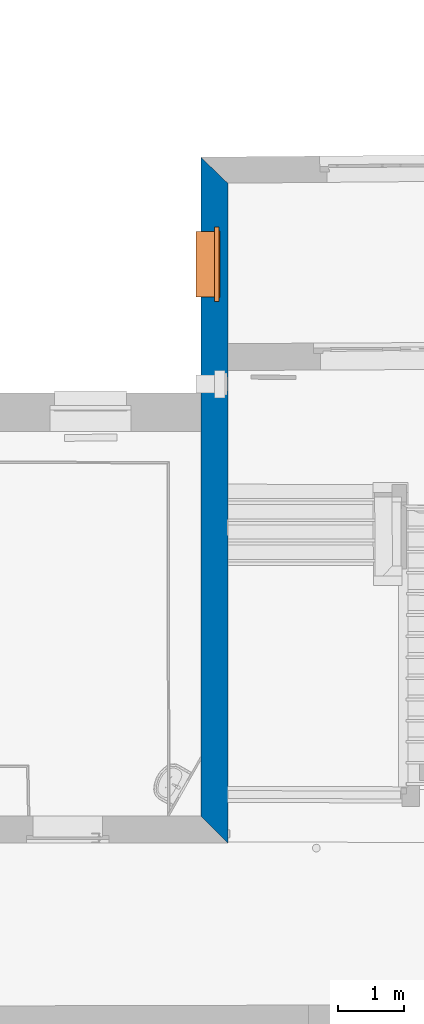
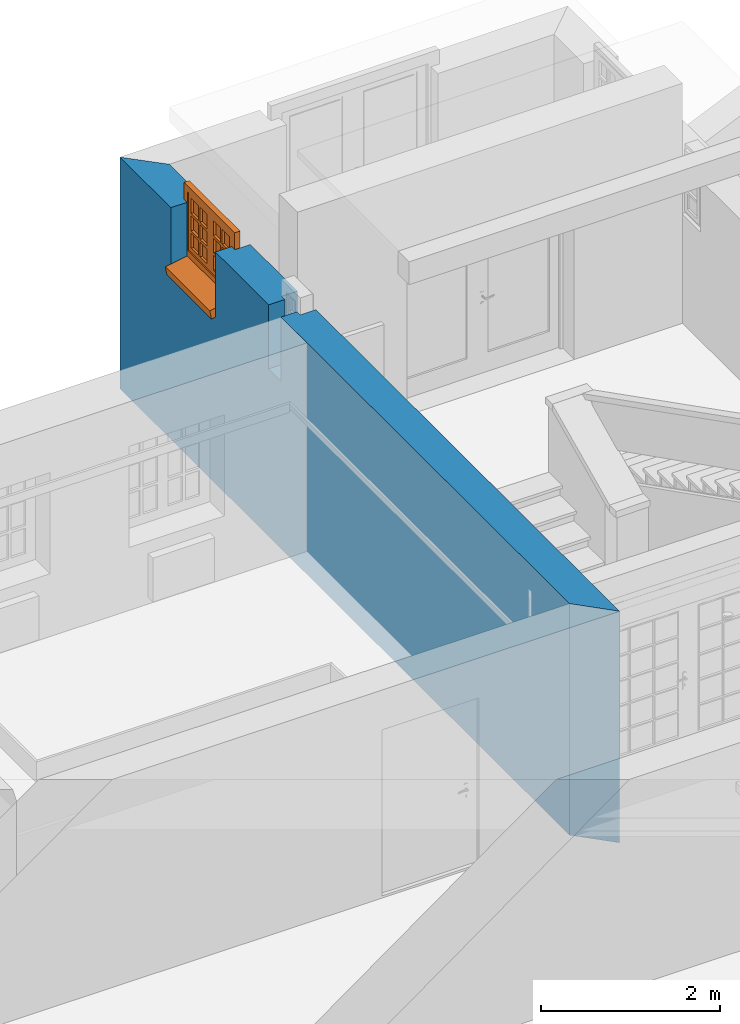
# One storey, part 28 of 196: 1 proxy, 1 wall, 2 openings.
"""IFC2X3 building model written with IfcOpenShell, lengths in metres."""

import ifcopenshell
import ifcopenshell.guid

model = None  # the IFC model being written
_history = None  # IfcOwnerHistory: only IFC2X3 demands one
_inside = {}  # id of a spatial element -> (the spatial element, [elements in it])
_under = {}  # id of a project, library or spatial element -> (it, [spatial elements below it])
_declared = {}  # id of a project -> (the project, [libraries it declares])
_typed = {}  # id of a type object -> (the type object, [elements of that type])
_made_of = {}  # id of a material, layer set ... -> (it, [elements and type objects made of it])


def new_model(schema):
    """Start an empty IFC model of exactly this schema.

    Asked for "IFC4X3", IfcOpenShell would pick the latest addendum, in which some entities
    have other attributes; the version numbers below select the first issue.
    IFC2X3 requires an IfcOwnerHistory on every rooted entity: one is made here for all.
    """
    global model, _history
    if schema == "IFC4X3":
        model = ifcopenshell.file(schema_version=(4, 3, 0, 0))
    else:
        model = ifcopenshell.file(schema=schema)
    _inside.clear()
    _under.clear()
    _declared.clear()
    _typed.clear()
    _made_of.clear()
    _history = None
    if model.schema == "IFC2X3":
        org = make("IfcOrganization", Name="unknown")
        user = make(
            "IfcPersonAndOrganization",
            ThePerson=make("IfcPerson", FamilyName="unknown"),
            TheOrganization=org,
        )
        app = make(
            "IfcApplication",
            ApplicationDeveloper=org,
            Version="unknown",
            ApplicationFullName="unknown",
            ApplicationIdentifier="unknown",
        )
        _history = make(
            "IfcOwnerHistory",
            OwningUser=user,
            OwningApplication=app,
            ChangeAction="ADDED",
            CreationDate=0,
        )
    return model


def make(cls, **values):
    """One entity of the class cls with the attributes given. An attribute that is None is left unset."""
    return model.create_entity(
        cls, **{name: value for name, value in values.items() if value is not None}
    )


def entity(cls, *values):
    """Any entity or typed value of the class cls, its attributes in the order of the schema. None: left unset."""
    e = model.create_entity(cls)
    for i, value in enumerate(values):
        if value is not None:
            e[i] = value
    return e


def rooted(cls, **values):
    """An entity with a GlobalId (a new one), such as an element, a storey or a relation."""
    return make(cls, GlobalId=ifcopenshell.guid.new(), OwnerHistory=_history, **values)


def si_unit(unit_type, name, prefix=None):
    """IfcSIUnit, for example si_unit("LENGTHUNIT", "METRE", prefix="MILLI")."""
    return make("IfcSIUnit", UnitType=unit_type, Prefix=prefix, Name=name)


def converted_unit(unit_type, name, factor, base, dimensions=None, offset=None):
    """IfcConversionBasedUnit, such as the inch: factor (a typed value) times the base unit."""
    return make(
        "IfcConversionBasedUnit"
        if offset is None
        else "IfcConversionBasedUnitWithOffset",
        ConversionOffset=offset,
        Dimensions=None
        if dimensions is None
        else entity("IfcDimensionalExponents", *dimensions),
        UnitType=unit_type,
        Name=name,
        ConversionFactor=make(
            "IfcMeasureWithUnit", ValueComponent=factor, UnitComponent=base
        ),
    )


def derived_unit(unit_type, elements):
    """IfcDerivedUnit: a product of units, each with its exponent."""
    return make(
        "IfcDerivedUnit",
        Elements=[
            make("IfcDerivedUnitElement", Unit=unit, Exponent=power)
            for unit, power in elements
        ],
        UnitType=unit_type,
    )


def money_unit(currency):
    """IfcMonetaryUnit."""
    return make("IfcMonetaryUnit", Currency=currency)


def assignment(units):
    """IfcUnitAssignment: the units of a project."""
    return None if units is None else make("IfcUnitAssignment", Units=units)


def point(xyz):
    """IfcCartesianPoint."""
    return None if xyz is None else make("IfcCartesianPoint", Coordinates=xyz)


def direction(xyz):
    """IfcDirection."""
    return None if xyz is None else make("IfcDirection", DirectionRatios=xyz)


def frame(location, z_axis=None, x_axis=None):
    """IfcAxis2Placement3D, a coordinate frame: its origin and axes. An axis left out is left unset."""
    return make(
        "IfcAxis2Placement3D",
        Location=point(location),
        Axis=direction(z_axis),
        RefDirection=direction(x_axis),
    )


def frame_2d(location, x_axis=None):
    """IfcAxis2Placement2D, a coordinate frame in the plane: its origin and x axis."""
    return make(
        "IfcAxis2Placement2D", Location=point(location), RefDirection=direction(x_axis)
    )


def origin_with_axes():
    """The frame at (0, 0, 0) with the z axis (0, 0, 1) and the x axis (1, 0, 0) written out."""
    return frame((0.0, 0.0, 0.0), z_axis=(0.0, 0.0, 1.0), x_axis=(1.0, 0.0, 0.0))


def origin_2d_with_axis():
    """The frame at (0, 0) in the plane with the x axis (1, 0) written out."""
    return frame_2d((0.0, 0.0), x_axis=(1.0, 0.0))


def place(relative_to, where):
    """IfcLocalPlacement: puts the frame where relative to a parent placement (None: the world)."""
    return make(
        "IfcLocalPlacement", PlacementRelTo=relative_to, RelativePlacement=where
    )


def context(
    kind, dimensions, precision=None, world=None, true_north=None, identifier=None
):
    """IfcGeometricRepresentationContext, for example the 3D "Model" context."""
    return make(
        "IfcGeometricRepresentationContext",
        ContextIdentifier=identifier,
        ContextType=kind,
        CoordinateSpaceDimension=dimensions,
        Precision=precision,
        WorldCoordinateSystem=world,
        TrueNorth=true_north,
    )


def subcontext(parent, identifier, kind, view, scale=None):
    """IfcGeometricRepresentationSubContext, for example "Body" below "Model"."""
    return make(
        "IfcGeometricRepresentationSubContext",
        ContextIdentifier=identifier,
        ContextType=kind,
        ParentContext=parent,
        TargetScale=scale,
        TargetView=view,
    )


def project(units=None, contexts=None):
    """IfcProject with its units and contexts."""
    return rooted(
        "IfcProject",
        Name="project",
        RepresentationContexts=contexts,
        UnitsInContext=assignment(units),
    )


def spatial(cls, under=None, at=None, **own):
    """A site, building, storey or space (cls), placed at a placement, below another one or the project."""
    s = rooted(cls, ObjectPlacement=at, **own)
    if under is not None:
        _under.setdefault(under.id(), (under, []))[1].append(s)
    return s


def polyline(points):
    """IfcPolyline through the points."""
    return make("IfcPolyline", Points=[point(p) for p in points])


def profile(cls, at=None, kind="AREA", **sizes):
    """A parametric profile (cls). Its sizes go by their IFC names, for example OverallWidth=200.0."""
    return make(cls, ProfileType=kind, Position=at, **sizes)


def rectangle(**sizes):
    """IfcRectangleProfileDef."""
    return profile("IfcRectangleProfileDef", **sizes)


def outline(outer, holes=None, kind="AREA"):
    """IfcArbitraryClosedProfileDef: a profile drawn as a closed curve; with holes, ...WithVoids."""
    if holes is None:
        return make("IfcArbitraryClosedProfileDef", ProfileType=kind, OuterCurve=outer)
    return make(
        "IfcArbitraryProfileDefWithVoids",
        ProfileType=kind,
        OuterCurve=outer,
        InnerCurves=holes,
    )


def extrude(swept, where, along, depth):
    """IfcExtrudedAreaSolid: the profile swept, set in the frame where, extruded along a direction by depth."""
    return make(
        "IfcExtrudedAreaSolid",
        SweptArea=swept,
        Position=where,
        ExtrudedDirection=direction(along),
        Depth=depth,
    )


def faces_of(points, faces, orient=None, outer=None):
    """IfcFace entities. A face is a list of loops; a loop is a list of indices into points, from 0.

    orient and outer hold one flag for each loop. By default every Orientation is true, the
    first loop of a face is its IfcFaceOuterBound and the others are IfcFaceBound.
    """
    made = []
    for i, loops in enumerate(faces):
        bounds = []
        for j, loop in enumerate(loops):
            is_outer = j == 0 if outer is None else outer[i][j]
            bounds.append(
                make(
                    "IfcFaceOuterBound" if is_outer else "IfcFaceBound",
                    Bound=make("IfcPolyLoop", Polygon=[points[k] for k in loop]),
                    Orientation=True if orient is None else orient[i][j],
                )
            )
        made.append(make("IfcFace", Bounds=bounds))
    return made


def faceted_brep(points, faces, orient=None, outer=None, voids=None):
    """IfcFacetedBrep: a solid bounded by flat faces; with voids (closed shells), ...WithVoids."""
    shared = [point(p) for p in points]
    hull = make("IfcClosedShell", CfsFaces=faces_of(shared, faces, orient, outer))
    if voids is None:
        return make("IfcFacetedBrep", Outer=hull)
    return make(
        "IfcFacetedBrepWithVoids",
        Outer=hull,
        Voids=[
            make(cls, CfsFaces=faces_of(shared, fs, o, b)) for cls, fs, o, b in voids
        ],
    )


def shape(context_of_items, identifier, shape_type, items):
    """IfcShapeRepresentation: the items that make up one representation, for example the "Body"."""
    return make(
        "IfcShapeRepresentation",
        ContextOfItems=context_of_items,
        RepresentationIdentifier=identifier,
        RepresentationType=shape_type,
        Items=items,
    )


def source(mapping_origin, context_of_items, identifier, shape_type, items):
    """IfcRepresentationMap: a shape defined once, which mapped items show again and again."""
    return make(
        "IfcRepresentationMap",
        MappingOrigin=mapping_origin,
        MappedRepresentation=shape(context_of_items, identifier, shape_type, items),
    )


def transform(
    local_origin,
    x_axis=None,
    y_axis=None,
    z_axis=None,
    scale=None,
    scale2=None,
    scale3=None,
    uniform=True,
):
    """IfcCartesianTransformationOperator3D, or its non-uniform kind. x_axis, y_axis, z_axis: its Axis1, 2, 3."""
    if uniform:
        return make(
            "IfcCartesianTransformationOperator3D",
            Axis1=direction(x_axis),
            Axis2=direction(y_axis),
            LocalOrigin=point(local_origin),
            Scale=scale,
            Axis3=direction(z_axis),
        )
    return make(
        "IfcCartesianTransformationOperator3DnonUniform",
        Axis1=direction(x_axis),
        Axis2=direction(y_axis),
        LocalOrigin=point(local_origin),
        Scale=scale,
        Axis3=direction(z_axis),
        Scale2=scale2,
        Scale3=scale3,
    )


def mapped(mapping_source, mapping_target):
    """IfcMappedItem: shows the shape of a source again, moved by a transform."""
    return make(
        "IfcMappedItem", MappingSource=mapping_source, MappingTarget=mapping_target
    )


def material(Name=None, Category=None):
    """IfcMaterial."""
    return make("IfcMaterial", Name=Name, Category=Category)


def layer(
    of_material, thickness, ventilated=None, Name=None, Category=None, Priority=None
):
    """IfcMaterialLayer: one layer of a wall or slab, of a material (None: an air gap)."""
    return make(
        "IfcMaterialLayer",
        Material=of_material,
        LayerThickness=thickness,
        IsVentilated=ventilated,
        Name=Name,
        Category=Category,
        Priority=Priority,
    )


def layer_set(layers, Name=None):
    """IfcMaterialLayerSet."""
    return make("IfcMaterialLayerSet", MaterialLayers=layers, LayerSetName=Name)


def layer_usage(for_layer_set, set_direction, sense, offset, extent=None):
    """IfcMaterialLayerSetUsage: how a layer set lies in its element."""
    return make(
        "IfcMaterialLayerSetUsage",
        ForLayerSet=for_layer_set,
        LayerSetDirection=set_direction,
        DirectionSense=sense,
        OffsetFromReferenceLine=offset,
        ReferenceExtent=extent,
    )


def made_of(thing, what):
    """Note that an element or type object is made of a material, layer set ...; save() writes the relation."""
    if what is not None:
        _made_of.setdefault(what.id(), (what, []))[1].append(thing)
    return thing


def type_object(cls, material=None, **own):
    """A type object (cls), such as IfcWallType, which elements share."""
    return made_of(rooted(cls, **own), material)


def element(
    cls,
    number,
    at=None,
    inside=None,
    cuts=None,
    type_object=None,
    material=None,
    context=None,
    identifier="Body",
    shape_type=None,
    held_by="IfcProductDefinitionShape",
    body=None,
    shapes=None,
    **own,
):
    """One element of the class cls, such as IfcWall. Its Tag is "e" and its number.

    at: its placement. inside: the storey or other place that contains it. cuts: it is an
    opening in that element (IfcRelVoidsElement). A single representation is given by context,
    identifier, shape_type and body (its items); several are given by shapes. held_by: the class
    of the entity that holds the representations. save() writes the other relations.
    """
    e = rooted(cls, Tag="e%d" % number, ObjectPlacement=at, **own)
    if body is not None:
        shapes = [shape(context, identifier, shape_type, body)]
    if shapes is not None:
        e.Representation = make(held_by, Representations=shapes)
    if inside is not None:
        _inside.setdefault(inside.id(), (inside, []))[1].append(e)
    if cuts is not None:
        rooted(
            "IfcRelVoidsElement", RelatingBuildingElement=cuts, RelatedOpeningElement=e
        )
    if type_object is not None:
        _typed.setdefault(type_object.id(), (type_object, []))[1].append(e)
    return made_of(e, material)


def fill(opening, filler):
    """IfcRelFillsElement: the door or window that sits in an opening."""
    return rooted(
        "IfcRelFillsElement",
        RelatingOpeningElement=opening,
        RelatedBuildingElement=filler,
    )


def aggregate(whole, parts):
    """IfcRelAggregates: a whole, such as a stair, and the parts it consists of."""
    return rooted("IfcRelAggregates", RelatingObject=whole, RelatedObjects=parts)


def save(model, path):
    """Write the relations noted so far, then the file.

    IfcRelAggregates (storeys below a building ...), IfcRelContainedInSpatialStructure (elements
    in a storey), IfcRelDefinesByType, IfcRelAssociatesMaterial and IfcRelDeclares: one each for
    every whole, place, type object, material and project.
    """
    for whole, parts in _under.values():
        aggregate(whole, parts)
    for where, things in _inside.values():
        rooted(
            "IfcRelContainedInSpatialStructure",
            RelatedElements=things,
            RelatingStructure=where,
        )
    for kind, things in _typed.values():
        rooted("IfcRelDefinesByType", RelatedObjects=things, RelatingType=kind)
    for what, things in _made_of.values():
        rooted("IfcRelAssociatesMaterial", RelatedObjects=things, RelatingMaterial=what)
    for by, libraries in _declared.values():
        rooted("IfcRelDeclares", RelatingContext=by, RelatedDefinitions=libraries)
    model.write(path)


model = new_model("IFC2X3")

# Units and contexts
model_context = context("Model", 3, precision=1e-05, world=origin_with_axes(), true_north=direction((0.0, 1.0)))
body_context = subcontext(model_context, "Body", "Model", "MODEL_VIEW")
ifc_project = project(units=[si_unit("LENGTHUNIT", "METRE"), si_unit("AREAUNIT", "SQUARE_METRE"), si_unit("VOLUMEUNIT", "CUBIC_METRE"), converted_unit("PLANEANGLEUNIT", "DEGREE", entity("IfcPlaneAngleMeasure", 0.0174532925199), si_unit("PLANEANGLEUNIT", "RADIAN"), dimensions=[0, 0, 0, 0, 0, 0, 0]), money_unit("EUR"), converted_unit("TIMEUNIT", "Year", entity("IfcTimeMeasure", 31556926.0), si_unit("TIMEUNIT", "SECOND"), dimensions=[0, 0, 1, 0, 0, 0, 0]), si_unit("MASSUNIT", "GRAM", prefix="KILO"), si_unit("THERMODYNAMICTEMPERATUREUNIT", "DEGREE_CELSIUS"), si_unit("LUMINOUSINTENSITYUNIT", "LUMEN"), si_unit("ENERGYUNIT", "JOULE", prefix="MEGA"), derived_unit("THERMALCONDUCTANCEUNIT", [(si_unit("POWERUNIT", "WATT"), 1), (si_unit("LENGTHUNIT", "METRE"), -1), (si_unit("THERMODYNAMICTEMPERATUREUNIT", "KELVIN"), -1)]), derived_unit("SPECIFICHEATCAPACITYUNIT", [(si_unit("ENERGYUNIT", "JOULE"), 1), (si_unit("MASSUNIT", "GRAM", prefix="KILO"), -1), (si_unit("THERMODYNAMICTEMPERATUREUNIT", "KELVIN"), -1)]), derived_unit("MASSDENSITYUNIT", [(si_unit("MASSUNIT", "GRAM", prefix="KILO"), 1), (si_unit("VOLUMEUNIT", "CUBIC_METRE"), -1)])], contexts=[model_context])

# Site, building, storey
site_placement = place(None, origin_with_axes())
site = spatial("IfcSite", under=ifc_project, at=site_placement, Name="Gelände", CompositionType="ELEMENT")
building_placement = place(site_placement, origin_with_axes())
building = spatial("IfcBuilding", under=site, at=building_placement, Name="Gebäude", CompositionType="ELEMENT")
storey_placement = place(building_placement, frame((0.0, 0.0, -3.0), z_axis=(0.0, 0.0, 1.0), x_axis=(1.0, 0.0, 0.0)))
storey = spatial("IfcBuildingStorey", under=building, at=storey_placement, Name="KELLERGESCHOSS", CompositionType="ELEMENT", Elevation=-3.0)

# Wall, openings, proxy
ifc_material = material(Name="05_ALLGEMEIN - TRAGENDE BAUTEILE")
ifc_layer = layer(ifc_material, 0.41, ventilated="UNKNOWN")
ifc_layer_set = layer_set([ifc_layer], Name="05_ALLGEMEIN - TRAGENDE BAUTEILE 0.41")
ifc_layer_usage = layer_usage(ifc_layer_set, "AXIS2", "NEGATIVE", 0.41)
wall_type = type_object("IfcWallType", Name="05_ALLGEMEIN - TRAGENDE BAUTEILE 410", PredefinedType="ELEMENTEDWALL")
wall_placement = place(storey_placement, frame((-9.84148103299, 19.2659840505, -0.36), z_axis=(0.0, 0.0, 1.0), x_axis=(-9.41336570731e-05, 0.999999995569, 0.0)))
wall = element("IfcWallStandardCase", 1, at=wall_placement, inside=storey, type_object=wall_type, material=ifc_layer_usage, Name="Wand-038", ObjectType="ELEMENTEDWALL", context=body_context, shape_type="SweptSolid", body=[
    extrude(outline(polyline([(0.0, 0.0), (10.0297381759, 0.0), (10.426267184, 0.41), (0.409925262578, 0.41), (0.0, 0.0)])), origin_with_axes(), (0.0, 0.0, 1.0), 3.15),
])
opening_1_placement = place(wall_placement, frame((8.79632693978, 0.0, 2.42470466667), z_axis=(0.0, 0.0, 1.0), x_axis=(1.0, 0.0, 0.0)))
opening_1 = element("IfcOpeningElement", 2, at=opening_1_placement, cuts=wall, Name="Fenster-015", context=body_context, shape_type="SweptSolid", body=[
    extrude(rectangle(XDim=0.991326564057, YDim=0.884032, at=origin_2d_with_axis()), frame((0.0, 0.201578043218, 0.442016), z_axis=(0.0, -1.0, 0.0), x_axis=(-1.0, 0.0, 0.0)), (0.0, 0.0, -1.0), 0.618421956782),
    extrude(rectangle(XDim=1.13132656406, YDim=0.954032, at=origin_2d_with_axis()), frame((0.0, 0.201578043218, 0.477016), z_axis=(0.0, 1.0, 0.0), x_axis=(-1.0, 0.0, 0.0)), (0.0, 0.0, -1.0), 0.611578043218),
    extrude(rectangle(XDim=0.991326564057, YDim=0.162128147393, at=origin_2d_with_axis()), frame((0.0, 0.160740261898, -0.0810640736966), z_axis=(0.0, -1.0, 0.0), x_axis=(-1.0, 0.0, 0.0)), (0.0, 0.0, -1.0), 0.45083778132),
])
opening_2_placement = place(wall_placement, frame((6.97472393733, 0.0, 2.44235066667), z_axis=(0.0, 0.0, 1.0), x_axis=(1.0, 0.0, 0.0)))
element("IfcOpeningElement", 3, at=opening_2_placement, cuts=wall, Name="Fenster-015", context=body_context, shape_type="SweptSolid", body=[
    extrude(rectangle(XDim=0.274211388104, YDim=0.866964, at=origin_2d_with_axis()), frame((0.0, 0.201578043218, 0.433482), z_axis=(0.0, -1.0, 0.0), x_axis=(-1.0, 0.0, 0.0)), (0.0, 0.0, -1.0), 0.618421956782),
    extrude(rectangle(XDim=0.414211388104, YDim=0.936964, at=origin_2d_with_axis()), frame((0.0, 0.201578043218, 0.468482), z_axis=(0.0, 1.0, 0.0), x_axis=(-1.0, 0.0, 0.0)), (0.0, 0.0, -1.0), 0.611578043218),
    extrude(rectangle(XDim=0.274211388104, YDim=0.162128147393, at=origin_2d_with_axis()), frame((0.0, 0.160740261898, -0.0810640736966), z_axis=(0.0, -1.0, 0.0), x_axis=(-1.0, 0.0, 0.0)), (0.0, 0.0, -1.0), 0.45083778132),
])
building_element_proxy_type = type_object("IfcBuildingElementProxyType", Name="2-Flügelfenster 25", PredefinedType="NOTDEFINED")
shared_shape = source(origin_with_axes(), body_context, "Body", "Brep", [
    faceted_brep([(-0.495663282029, -0.05, 0.0), (-0.495663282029, -0.349259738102, -0.0527675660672), (0.495663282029, -0.349259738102, -0.0527675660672), (0.495663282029, -0.05, 0.0), (-0.495663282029, -0.02916221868, -0.118176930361), (-0.495663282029, -0.328421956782, -0.170944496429), (0.495663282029, -0.328421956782, -0.170944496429), (0.495663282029, -0.02916221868, -0.118176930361)], [[[0, 1, 2, 3]], [[0, 4, 5, 1]], [[1, 5, 6, 2]], [[3, 2, 6, 7]], [[4, 0, 3, 7]], [[5, 4, 7, 6]]]),
    faceted_brep([(-0.565663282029, -0.07, 0.0), (-0.565663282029, 0.0, 0.0), (-0.485663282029, 0.0, 0.08), (-0.485663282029, -0.07, 0.08), (-0.565663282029, -0.07, 0.954032), (-0.565663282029, 0.0, 0.954032), (-0.485663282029, 0.0, 0.874032), (-0.485663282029, -0.07, 0.874032)], [[[0, 1, 2, 3]], [[4, 5, 1, 0]], [[1, 5, 6, 2]], [[3, 2, 6, 7]], [[0, 3, 7, 4]], [[7, 6, 5, 4]]]),
    faceted_brep([(0.565663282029, -0.07, 0.0), (0.565663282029, 0.0, 0.0), (0.565663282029, 0.0, 0.954032), (0.565663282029, -0.07, 0.954032), (0.485663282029, -0.07, 0.08), (0.485663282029, 0.0, 0.08), (0.485663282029, 0.0, 0.874032), (0.485663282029, -0.07, 0.874032)], [[[0, 1, 2, 3]], [[4, 5, 1, 0]], [[1, 5, 6, 2]], [[3, 2, 6, 7]], [[0, 3, 7, 4]], [[7, 6, 5, 4]]]),
    faceted_brep([(-0.565663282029, -0.07, 0.0), (-0.565663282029, 0.0, 0.0), (0.565663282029, 0.0, 0.0), (0.565663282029, -0.07, 0.0), (-0.485663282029, -0.07, 0.08), (-0.485663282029, 0.0, 0.08), (0.0, 0.0, 0.08), (0.485663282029, 0.0, 0.08), (0.485663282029, -0.07, 0.08), (0.0, -0.07, 0.08)], [[[0, 1, 2, 3]], [[4, 5, 1, 0]], [[1, 5, 6, 7, 2]], [[3, 2, 7, 8]], [[0, 3, 8, 9, 4]], [[9, 6, 5, 4]], [[8, 7, 6, 9]]]),
    faceted_brep([(-0.565663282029, -0.07, 0.954032), (-0.565663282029, 0.0, 0.954032), (-0.485663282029, 0.0, 0.874032), (-0.485663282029, -0.07, 0.874032), (0.565663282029, -0.07, 0.954032), (0.565663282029, 0.0, 0.954032), (0.485663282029, 0.0, 0.874032), (0.0, 0.0, 0.874032), (0.0, -0.07, 0.874032), (0.485663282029, -0.07, 0.874032)], [[[0, 1, 2, 3]], [[4, 5, 1, 0]], [[1, 5, 6, 7, 2]], [[3, 2, 7, 8]], [[0, 3, 8, 9, 4]], [[9, 6, 5, 4]], [[8, 7, 6, 9]]]),
    faceted_brep([(-0.505663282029, 0.0, 0.06), (-0.505663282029, 0.013, 0.06), (-0.425663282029, 0.013, 0.14), (-0.425663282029, 0.0, 0.14), (-0.505663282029, 0.0, 0.894032), (-0.505663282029, 0.013, 0.894032), (-0.425663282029, 0.013, 0.814032), (-0.425663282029, 0.0, 0.814032)], [[[0, 1, 2, 3]], [[4, 5, 1, 0]], [[1, 5, 6, 2]], [[3, 2, 6, 7]], [[0, 3, 7, 4]], [[7, 6, 5, 4]]]),
    faceted_brep([(-0.01, 0.0, 0.06), (-0.01, 0.013, 0.06), (-0.01, 0.013, 0.894032), (-0.01, 0.0, 0.894032), (-0.07, 0.0, 0.14), (-0.07, 0.013, 0.14), (-0.07, 0.013, 0.814032), (-0.07, 0.0, 0.814032)], [[[0, 1, 2, 3]], [[4, 5, 1, 0]], [[1, 5, 6, 2]], [[3, 2, 6, 7]], [[0, 3, 7, 4]], [[7, 6, 5, 4]]]),
    faceted_brep([(-0.505663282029, 0.0, 0.06), (-0.505663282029, 0.013, 0.06), (-0.01, 0.013, 0.06), (-0.01, 0.0, 0.06), (-0.425663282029, 0.0, 0.14), (-0.425663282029, 0.013, 0.14), (-0.07, 0.013, 0.14), (-0.07, 0.0, 0.14)], [[[0, 1, 2, 3]], [[4, 5, 1, 0]], [[1, 5, 6, 2]], [[3, 2, 6, 7]], [[0, 3, 7, 4]], [[7, 6, 5, 4]]]),
    faceted_brep([(-0.505663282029, 0.0, 0.894032), (-0.505663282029, 0.013, 0.894032), (-0.425663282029, 0.013, 0.814032), (-0.425663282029, 0.0, 0.814032), (-0.01, 0.0, 0.894032), (-0.01, 0.013, 0.894032), (-0.07, 0.013, 0.814032), (-0.07, 0.0, 0.814032)], [[[0, 1, 2, 3]], [[4, 5, 1, 0]], [[1, 5, 6, 2]], [[3, 2, 6, 7]], [[0, 3, 7, 4]], [[7, 6, 5, 4]]]),
    faceted_brep([(-0.485663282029, -0.057, 0.08), (-0.485663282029, 0.0, 0.08), (-0.425663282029, 0.0, 0.14), (-0.425663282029, -0.057, 0.14), (-0.485663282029, -0.057, 0.874032), (-0.485663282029, 0.0, 0.874032), (-0.425663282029, 0.0, 0.814032), (-0.425663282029, -0.057, 0.814032)], [[[0, 1, 2, 3]], [[4, 5, 1, 0]], [[1, 5, 6, 2]], [[3, 2, 6, 7]], [[0, 3, 7, 4]], [[7, 6, 5, 4]]]),
    faceted_brep([(0.01, -0.057, 0.08), (0.01, 0.0, 0.08), (0.01, 0.0, 0.874032), (0.01, -0.057, 0.874032), (-0.07, -0.057, 0.14), (-0.07, 0.0, 0.14), (-0.07, 0.0, 0.814032), (-0.07, -0.057, 0.814032)], [[[0, 1, 2, 3]], [[4, 5, 1, 0]], [[1, 5, 6, 2]], [[3, 2, 6, 7]], [[0, 3, 7, 4]], [[7, 6, 5, 4]]]),
    faceted_brep([(-0.485663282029, -0.057, 0.08), (-0.485663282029, 0.0, 0.08), (0.01, 0.0, 0.08), (0.01, -0.057, 0.08), (-0.425663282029, -0.057, 0.14), (-0.425663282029, 0.0, 0.14), (-0.07, 0.0, 0.14), (-0.07, -0.057, 0.14)], [[[0, 1, 2, 3]], [[4, 5, 1, 0]], [[1, 5, 6, 2]], [[3, 2, 6, 7]], [[0, 3, 7, 4]], [[7, 6, 5, 4]]]),
    faceted_brep([(-0.485663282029, -0.057, 0.874032), (-0.485663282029, 0.0, 0.874032), (-0.425663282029, 0.0, 0.814032), (-0.425663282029, -0.057, 0.814032), (0.01, -0.057, 0.874032), (0.01, 0.0, 0.874032), (-0.07, 0.0, 0.814032), (-0.07, -0.057, 0.814032)], [[[0, 1, 2, 3]], [[4, 5, 1, 0]], [[1, 5, 6, 2]], [[3, 2, 6, 7]], [[0, 3, 7, 4]], [[7, 6, 5, 4]]]),
    faceted_brep([(-0.265331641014, -0.057, 0.14), (-0.265331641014, -0.022, 0.14), (-0.230331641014, -0.022, 0.14), (-0.230331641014, -0.057, 0.14), (-0.265331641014, -0.057, 0.814032), (-0.265331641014, -0.022, 0.814032), (-0.230331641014, -0.022, 0.814032), (-0.230331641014, -0.057, 0.814032)], [[[0, 1, 2, 3]], [[4, 5, 1, 0]], [[1, 5, 6, 2]], [[3, 2, 6, 7]], [[0, 3, 7, 4]], [[7, 6, 5, 4]]]),
    faceted_brep([(-0.265331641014, -0.022, 0.14), (-0.265331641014, 0.013, 0.14), (-0.230331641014, 0.013, 0.14), (-0.230331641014, -0.022, 0.14), (-0.265331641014, -0.022, 0.814032), (-0.265331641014, 0.013, 0.814032), (-0.230331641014, 0.013, 0.814032), (-0.230331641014, -0.022, 0.814032)], [[[0, 1, 2, 3]], [[4, 5, 1, 0]], [[1, 5, 6, 2]], [[3, 2, 6, 7]], [[0, 3, 7, 4]], [[7, 6, 5, 4]]]),
    faceted_brep([(-0.265331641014, -0.057, 0.341344), (-0.265331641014, -0.057, 0.376344), (-0.425663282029, -0.057, 0.376344), (-0.425663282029, -0.057, 0.341344), (-0.265331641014, -0.022, 0.376344), (-0.265331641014, -0.022, 0.341344), (-0.425663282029, -0.022, 0.376344), (-0.425663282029, -0.022, 0.341344)], [[[0, 1, 2, 3]], [[4, 1, 0, 5]], [[1, 4, 6, 2]], [[6, 7, 3, 2]], [[5, 0, 3, 7]], [[4, 5, 7, 6]]]),
    faceted_brep([(-0.230331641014, -0.022, 0.376344), (-0.230331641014, -0.057, 0.376344), (-0.07, -0.057, 0.376344), (-0.07, -0.022, 0.376344), (-0.230331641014, -0.057, 0.341344), (-0.230331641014, -0.022, 0.341344), (-0.07, -0.057, 0.341344), (-0.07, -0.022, 0.341344)], [[[0, 1, 2, 3]], [[4, 1, 0, 5]], [[1, 4, 6, 2]], [[7, 3, 2, 6]], [[5, 0, 3, 7]], [[4, 5, 7, 6]]]),
    faceted_brep([(-0.265331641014, -0.022, 0.341344), (-0.265331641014, -0.022, 0.376344), (-0.425663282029, -0.022, 0.376344), (-0.425663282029, -0.022, 0.341344), (-0.265331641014, 0.013, 0.376344), (-0.265331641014, 0.013, 0.341344), (-0.425663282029, 0.013, 0.376344), (-0.425663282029, 0.013, 0.341344)], [[[0, 1, 2, 3]], [[4, 1, 0, 5]], [[1, 4, 6, 2]], [[6, 7, 3, 2]], [[5, 0, 3, 7]], [[4, 5, 7, 6]]]),
    faceted_brep([(-0.230331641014, 0.013, 0.376344), (-0.230331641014, -0.022, 0.376344), (-0.07, -0.022, 0.376344), (-0.07, 0.013, 0.376344), (-0.230331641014, -0.022, 0.341344), (-0.230331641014, 0.013, 0.341344), (-0.07, -0.022, 0.341344), (-0.07, 0.013, 0.341344)], [[[0, 1, 2, 3]], [[4, 1, 0, 5]], [[1, 4, 6, 2]], [[7, 3, 2, 6]], [[5, 0, 3, 7]], [[4, 5, 7, 6]]]),
    faceted_brep([(-0.265331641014, -0.057, 0.577688), (-0.265331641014, -0.057, 0.612688), (-0.425663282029, -0.057, 0.612688), (-0.425663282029, -0.057, 0.577688), (-0.265331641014, -0.022, 0.612688), (-0.265331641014, -0.022, 0.577688), (-0.425663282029, -0.022, 0.612688), (-0.425663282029, -0.022, 0.577688)], [[[0, 1, 2, 3]], [[4, 1, 0, 5]], [[1, 4, 6, 2]], [[6, 7, 3, 2]], [[5, 0, 3, 7]], [[4, 5, 7, 6]]]),
    faceted_brep([(-0.230331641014, -0.022, 0.612688), (-0.230331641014, -0.057, 0.612688), (-0.07, -0.057, 0.612688), (-0.07, -0.022, 0.612688), (-0.230331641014, -0.057, 0.577688), (-0.230331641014, -0.022, 0.577688), (-0.07, -0.057, 0.577688), (-0.07, -0.022, 0.577688)], [[[0, 1, 2, 3]], [[4, 1, 0, 5]], [[1, 4, 6, 2]], [[7, 3, 2, 6]], [[5, 0, 3, 7]], [[4, 5, 7, 6]]]),
    faceted_brep([(-0.265331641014, -0.022, 0.577688), (-0.265331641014, -0.022, 0.612688), (-0.425663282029, -0.022, 0.612688), (-0.425663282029, -0.022, 0.577688), (-0.265331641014, 0.013, 0.612688), (-0.265331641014, 0.013, 0.577688), (-0.425663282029, 0.013, 0.612688), (-0.425663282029, 0.013, 0.577688)], [[[0, 1, 2, 3]], [[4, 1, 0, 5]], [[1, 4, 6, 2]], [[6, 7, 3, 2]], [[5, 0, 3, 7]], [[4, 5, 7, 6]]]),
    faceted_brep([(-0.230331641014, 0.013, 0.612688), (-0.230331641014, -0.022, 0.612688), (-0.07, -0.022, 0.612688), (-0.07, 0.013, 0.612688), (-0.230331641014, -0.022, 0.577688), (-0.230331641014, 0.013, 0.577688), (-0.07, -0.022, 0.577688), (-0.07, 0.013, 0.577688)], [[[0, 1, 2, 3]], [[4, 1, 0, 5]], [[1, 4, 6, 2]], [[7, 3, 2, 6]], [[5, 0, 3, 7]], [[4, 5, 7, 6]]]),
    faceted_brep([(-0.265331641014, -0.017, 0.577688), (-0.265331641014, -0.027, 0.577688), (-0.265331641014, -0.027, 0.376344), (-0.265331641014, -0.017, 0.376344), (-0.425663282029, -0.027, 0.577688), (-0.425663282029, -0.017, 0.577688), (-0.425663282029, -0.027, 0.376344), (-0.425663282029, -0.017, 0.376344)], [[[0, 1, 2, 3]], [[4, 1, 0, 5]], [[1, 4, 6, 2]], [[2, 6, 7, 3]], [[5, 0, 3, 7]], [[4, 5, 7, 6]]]),
    faceted_brep([(-0.07, -0.027, 0.14), (-0.07, -0.017, 0.14), (-0.07, -0.017, 0.341344), (-0.07, -0.027, 0.341344), (-0.230331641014, -0.027, 0.14), (-0.230331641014, -0.017, 0.14), (-0.230331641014, -0.017, 0.341344), (-0.230331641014, -0.027, 0.341344)], [[[0, 1, 2, 3]], [[0, 4, 5, 1]], [[1, 5, 6, 2]], [[2, 6, 7, 3]], [[4, 0, 3, 7]], [[5, 4, 7, 6]]]),
    faceted_brep([(-0.265331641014, -0.027, 0.14), (-0.265331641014, -0.017, 0.14), (-0.265331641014, -0.017, 0.341344), (-0.265331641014, -0.027, 0.341344), (-0.425663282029, -0.017, 0.14), (-0.425663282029, -0.027, 0.14), (-0.425663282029, -0.017, 0.341344), (-0.425663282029, -0.027, 0.341344)], [[[0, 1, 2, 3]], [[4, 1, 0, 5]], [[1, 4, 6, 2]], [[2, 6, 7, 3]], [[5, 0, 3, 7]], [[4, 5, 7, 6]]]),
    faceted_brep([(-0.07, -0.017, 0.577688), (-0.07, -0.027, 0.577688), (-0.07, -0.027, 0.376344), (-0.07, -0.017, 0.376344), (-0.230331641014, -0.027, 0.577688), (-0.230331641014, -0.017, 0.577688), (-0.230331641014, -0.027, 0.376344), (-0.230331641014, -0.017, 0.376344)], [[[0, 1, 2, 3]], [[4, 1, 0, 5]], [[1, 4, 6, 2]], [[2, 6, 7, 3]], [[5, 0, 3, 7]], [[4, 5, 7, 6]]]),
    faceted_brep([(-0.425663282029, -0.027, 0.612688), (-0.265331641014, -0.027, 0.612688), (-0.265331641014, -0.027, 0.814032), (-0.425663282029, -0.027, 0.814032), (-0.265331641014, -0.017, 0.612688), (-0.425663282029, -0.017, 0.612688), (-0.265331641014, -0.017, 0.814032), (-0.425663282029, -0.017, 0.814032)], [[[0, 1, 2, 3]], [[4, 1, 0, 5]], [[1, 4, 6, 2]], [[7, 3, 2, 6]], [[5, 0, 3, 7]], [[4, 5, 7, 6]]]),
    faceted_brep([(-0.230331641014, -0.027, 0.612688), (-0.07, -0.027, 0.612688), (-0.07, -0.027, 0.814032), (-0.230331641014, -0.027, 0.814032), (-0.07, -0.017, 0.612688), (-0.230331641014, -0.017, 0.612688), (-0.07, -0.017, 0.814032), (-0.230331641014, -0.017, 0.814032)], [[[0, 1, 2, 3]], [[4, 1, 0, 5]], [[1, 4, 6, 2]], [[2, 6, 7, 3]], [[5, 0, 3, 7]], [[4, 5, 7, 6]]]),
    faceted_brep([(-0.01, 0.0, 0.06), (-0.01, 0.013, 0.06), (0.07, 0.013, 0.14), (0.07, 0.0, 0.14), (-0.01, 0.0, 0.894032), (-0.01, 0.013, 0.894032), (0.07, 0.013, 0.814032), (0.07, 0.0, 0.814032)], [[[0, 1, 2, 3]], [[4, 5, 1, 0]], [[1, 5, 6, 2]], [[3, 2, 6, 7]], [[0, 3, 7, 4]], [[7, 6, 5, 4]]]),
    faceted_brep([(0.505663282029, 0.0, 0.06), (0.425663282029, 0.0, 0.14), (0.425663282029, 0.013, 0.14), (0.505663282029, 0.013, 0.06), (0.505663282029, 0.0, 0.894032), (0.425663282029, 0.0, 0.814032), (0.425663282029, 0.013, 0.814032), (0.505663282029, 0.013, 0.894032)], [[[0, 1, 2, 3]], [[0, 4, 5, 1]], [[1, 5, 6, 2]], [[3, 2, 6, 7]], [[4, 0, 3, 7]], [[5, 4, 7, 6]]]),
    faceted_brep([(-0.01, 0.0, 0.06), (-0.01, 0.013, 0.06), (0.505663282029, 0.013, 0.06), (0.505663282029, 0.0, 0.06), (0.07, 0.0, 0.14), (0.07, 0.013, 0.14), (0.425663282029, 0.013, 0.14), (0.425663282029, 0.0, 0.14)], [[[0, 1, 2, 3]], [[4, 5, 1, 0]], [[1, 5, 6, 2]], [[3, 2, 6, 7]], [[0, 3, 7, 4]], [[7, 6, 5, 4]]]),
    faceted_brep([(-0.01, 0.0, 0.894032), (0.505663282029, 0.0, 0.894032), (0.505663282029, 0.013, 0.894032), (-0.01, 0.013, 0.894032), (0.07, 0.0, 0.814032), (0.425663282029, 0.0, 0.814032), (0.425663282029, 0.013, 0.814032), (0.07, 0.013, 0.814032)], [[[0, 1, 2, 3]], [[0, 4, 5, 1]], [[1, 5, 6, 2]], [[3, 2, 6, 7]], [[4, 0, 3, 7]], [[5, 4, 7, 6]]]),
    faceted_brep([(0.01, -0.057, 0.08), (0.01, 0.0, 0.08), (0.07, 0.0, 0.14), (0.07, -0.057, 0.14), (0.01, -0.057, 0.874032), (0.01, 0.0, 0.874032), (0.07, 0.0, 0.814032), (0.07, -0.057, 0.814032)], [[[0, 1, 2, 3]], [[4, 5, 1, 0]], [[1, 5, 6, 2]], [[3, 2, 6, 7]], [[0, 3, 7, 4]], [[7, 6, 5, 4]]]),
    faceted_brep([(0.485663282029, -0.057, 0.08), (0.425663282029, -0.057, 0.14), (0.425663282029, 0.0, 0.14), (0.485663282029, 0.0, 0.08), (0.485663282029, -0.057, 0.874032), (0.425663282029, -0.057, 0.814032), (0.425663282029, 0.0, 0.814032), (0.485663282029, 0.0, 0.874032)], [[[0, 1, 2, 3]], [[0, 4, 5, 1]], [[1, 5, 6, 2]], [[3, 2, 6, 7]], [[4, 0, 3, 7]], [[5, 4, 7, 6]]]),
    faceted_brep([(0.01, -0.057, 0.08), (0.01, 0.0, 0.08), (0.485663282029, 0.0, 0.08), (0.485663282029, -0.057, 0.08), (0.07, -0.057, 0.14), (0.07, 0.0, 0.14), (0.425663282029, 0.0, 0.14), (0.425663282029, -0.057, 0.14)], [[[0, 1, 2, 3]], [[4, 5, 1, 0]], [[1, 5, 6, 2]], [[3, 2, 6, 7]], [[0, 3, 7, 4]], [[7, 6, 5, 4]]]),
    faceted_brep([(0.01, -0.057, 0.874032), (0.485663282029, -0.057, 0.874032), (0.485663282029, 0.0, 0.874032), (0.01, 0.0, 0.874032), (0.07, -0.057, 0.814032), (0.425663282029, -0.057, 0.814032), (0.425663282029, 0.0, 0.814032), (0.07, 0.0, 0.814032)], [[[0, 1, 2, 3]], [[0, 4, 5, 1]], [[1, 5, 6, 2]], [[3, 2, 6, 7]], [[4, 0, 3, 7]], [[5, 4, 7, 6]]]),
    faceted_brep([(0.230331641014, -0.057, 0.14), (0.230331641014, -0.022, 0.14), (0.265331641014, -0.022, 0.14), (0.265331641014, -0.057, 0.14), (0.230331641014, -0.057, 0.814032), (0.230331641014, -0.022, 0.814032), (0.265331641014, -0.022, 0.814032), (0.265331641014, -0.057, 0.814032)], [[[0, 1, 2, 3]], [[4, 5, 1, 0]], [[1, 5, 6, 2]], [[3, 2, 6, 7]], [[0, 3, 7, 4]], [[7, 6, 5, 4]]]),
    faceted_brep([(0.230331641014, -0.022, 0.14), (0.230331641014, 0.013, 0.14), (0.265331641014, 0.013, 0.14), (0.265331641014, -0.022, 0.14), (0.230331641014, -0.022, 0.814032), (0.230331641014, 0.013, 0.814032), (0.265331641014, 0.013, 0.814032), (0.265331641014, -0.022, 0.814032)], [[[0, 1, 2, 3]], [[4, 5, 1, 0]], [[1, 5, 6, 2]], [[3, 2, 6, 7]], [[0, 3, 7, 4]], [[7, 6, 5, 4]]]),
    faceted_brep([(0.230331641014, -0.057, 0.341344), (0.230331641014, -0.057, 0.376344), (0.07, -0.057, 0.376344), (0.07, -0.057, 0.341344), (0.230331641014, -0.022, 0.376344), (0.230331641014, -0.022, 0.341344), (0.07, -0.022, 0.376344), (0.07, -0.022, 0.341344)], [[[0, 1, 2, 3]], [[4, 1, 0, 5]], [[1, 4, 6, 2]], [[6, 7, 3, 2]], [[5, 0, 3, 7]], [[4, 5, 7, 6]]]),
    faceted_brep([(0.265331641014, -0.022, 0.376344), (0.265331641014, -0.057, 0.376344), (0.425663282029, -0.057, 0.376344), (0.425663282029, -0.022, 0.376344), (0.265331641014, -0.057, 0.341344), (0.265331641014, -0.022, 0.341344), (0.425663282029, -0.057, 0.341344), (0.425663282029, -0.022, 0.341344)], [[[0, 1, 2, 3]], [[4, 1, 0, 5]], [[1, 4, 6, 2]], [[7, 3, 2, 6]], [[5, 0, 3, 7]], [[4, 5, 7, 6]]]),
    faceted_brep([(0.230331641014, -0.022, 0.341344), (0.230331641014, -0.022, 0.376344), (0.07, -0.022, 0.376344), (0.07, -0.022, 0.341344), (0.230331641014, 0.013, 0.376344), (0.230331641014, 0.013, 0.341344), (0.07, 0.013, 0.376344), (0.07, 0.013, 0.341344)], [[[0, 1, 2, 3]], [[4, 1, 0, 5]], [[1, 4, 6, 2]], [[6, 7, 3, 2]], [[5, 0, 3, 7]], [[4, 5, 7, 6]]]),
    faceted_brep([(0.265331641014, 0.013, 0.376344), (0.265331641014, -0.022, 0.376344), (0.425663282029, -0.022, 0.376344), (0.425663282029, 0.013, 0.376344), (0.265331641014, -0.022, 0.341344), (0.265331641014, 0.013, 0.341344), (0.425663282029, -0.022, 0.341344), (0.425663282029, 0.013, 0.341344)], [[[0, 1, 2, 3]], [[4, 1, 0, 5]], [[1, 4, 6, 2]], [[7, 3, 2, 6]], [[5, 0, 3, 7]], [[4, 5, 7, 6]]]),
    faceted_brep([(0.230331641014, -0.057, 0.577688), (0.230331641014, -0.057, 0.612688), (0.07, -0.057, 0.612688), (0.07, -0.057, 0.577688), (0.230331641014, -0.022, 0.612688), (0.230331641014, -0.022, 0.577688), (0.07, -0.022, 0.612688), (0.07, -0.022, 0.577688)], [[[0, 1, 2, 3]], [[4, 1, 0, 5]], [[1, 4, 6, 2]], [[6, 7, 3, 2]], [[5, 0, 3, 7]], [[4, 5, 7, 6]]]),
    faceted_brep([(0.265331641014, -0.022, 0.612688), (0.265331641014, -0.057, 0.612688), (0.425663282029, -0.057, 0.612688), (0.425663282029, -0.022, 0.612688), (0.265331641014, -0.057, 0.577688), (0.265331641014, -0.022, 0.577688), (0.425663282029, -0.057, 0.577688), (0.425663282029, -0.022, 0.577688)], [[[0, 1, 2, 3]], [[4, 1, 0, 5]], [[1, 4, 6, 2]], [[7, 3, 2, 6]], [[5, 0, 3, 7]], [[4, 5, 7, 6]]]),
    faceted_brep([(0.230331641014, -0.022, 0.577688), (0.230331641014, -0.022, 0.612688), (0.07, -0.022, 0.612688), (0.07, -0.022, 0.577688), (0.230331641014, 0.013, 0.612688), (0.230331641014, 0.013, 0.577688), (0.07, 0.013, 0.612688), (0.07, 0.013, 0.577688)], [[[0, 1, 2, 3]], [[4, 1, 0, 5]], [[1, 4, 6, 2]], [[6, 7, 3, 2]], [[5, 0, 3, 7]], [[4, 5, 7, 6]]]),
    faceted_brep([(0.265331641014, 0.013, 0.612688), (0.265331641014, -0.022, 0.612688), (0.425663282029, -0.022, 0.612688), (0.425663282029, 0.013, 0.612688), (0.265331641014, -0.022, 0.577688), (0.265331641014, 0.013, 0.577688), (0.425663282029, -0.022, 0.577688), (0.425663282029, 0.013, 0.577688)], [[[0, 1, 2, 3]], [[4, 1, 0, 5]], [[1, 4, 6, 2]], [[7, 3, 2, 6]], [[5, 0, 3, 7]], [[4, 5, 7, 6]]]),
    faceted_brep([(0.230331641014, -0.017, 0.577688), (0.230331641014, -0.027, 0.577688), (0.230331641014, -0.027, 0.376344), (0.230331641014, -0.017, 0.376344), (0.07, -0.027, 0.577688), (0.07, -0.017, 0.577688), (0.07, -0.027, 0.376344), (0.07, -0.017, 0.376344)], [[[0, 1, 2, 3]], [[4, 1, 0, 5]], [[1, 4, 6, 2]], [[2, 6, 7, 3]], [[5, 0, 3, 7]], [[4, 5, 7, 6]]]),
    faceted_brep([(0.425663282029, -0.027, 0.14), (0.425663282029, -0.017, 0.14), (0.425663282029, -0.017, 0.341344), (0.425663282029, -0.027, 0.341344), (0.265331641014, -0.027, 0.14), (0.265331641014, -0.017, 0.14), (0.265331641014, -0.017, 0.341344), (0.265331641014, -0.027, 0.341344)], [[[0, 1, 2, 3]], [[0, 4, 5, 1]], [[1, 5, 6, 2]], [[2, 6, 7, 3]], [[4, 0, 3, 7]], [[5, 4, 7, 6]]]),
    faceted_brep([(0.230331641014, -0.027, 0.14), (0.230331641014, -0.017, 0.14), (0.230331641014, -0.017, 0.341344), (0.230331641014, -0.027, 0.341344), (0.07, -0.017, 0.14), (0.07, -0.027, 0.14), (0.07, -0.017, 0.341344), (0.07, -0.027, 0.341344)], [[[0, 1, 2, 3]], [[4, 1, 0, 5]], [[1, 4, 6, 2]], [[2, 6, 7, 3]], [[5, 0, 3, 7]], [[4, 5, 7, 6]]]),
    faceted_brep([(0.425663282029, -0.017, 0.577688), (0.425663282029, -0.027, 0.577688), (0.425663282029, -0.027, 0.376344), (0.425663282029, -0.017, 0.376344), (0.265331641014, -0.027, 0.577688), (0.265331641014, -0.017, 0.577688), (0.265331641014, -0.027, 0.376344), (0.265331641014, -0.017, 0.376344)], [[[0, 1, 2, 3]], [[4, 1, 0, 5]], [[1, 4, 6, 2]], [[2, 6, 7, 3]], [[5, 0, 3, 7]], [[4, 5, 7, 6]]]),
    faceted_brep([(0.07, -0.027, 0.612688), (0.230331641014, -0.027, 0.612688), (0.230331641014, -0.027, 0.814032), (0.07, -0.027, 0.814032), (0.230331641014, -0.017, 0.612688), (0.07, -0.017, 0.612688), (0.230331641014, -0.017, 0.814032), (0.07, -0.017, 0.814032)], [[[0, 1, 2, 3]], [[4, 1, 0, 5]], [[1, 4, 6, 2]], [[7, 3, 2, 6]], [[5, 0, 3, 7]], [[4, 5, 7, 6]]]),
    faceted_brep([(0.265331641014, -0.027, 0.612688), (0.425663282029, -0.027, 0.612688), (0.425663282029, -0.027, 0.814032), (0.265331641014, -0.027, 0.814032), (0.425663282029, -0.017, 0.612688), (0.265331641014, -0.017, 0.612688), (0.425663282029, -0.017, 0.814032), (0.265331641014, -0.017, 0.814032)], [[[0, 1, 2, 3]], [[4, 1, 0, 5]], [[1, 4, 6, 2]], [[2, 6, 7, 3]], [[5, 0, 3, 7]], [[4, 5, 7, 6]]]),
])
proxy_placement = place(opening_1_placement, frame((0.565663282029, 0.0, 0.0), z_axis=(0.0, 0.0, 1.0), x_axis=(-1.0, 0.0, 0.0)))
proxy = element("IfcBuildingElementProxy", 4, at=proxy_placement, inside=storey, type_object=building_element_proxy_type, Name="Fenster-015", context=body_context, shape_type="MappedRepresentation", body=[
    mapped(shared_shape, transform((0.565663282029, -0.131578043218, 0.0))),
])
fill(opening_1, proxy)

save(model, "model.ifc")
